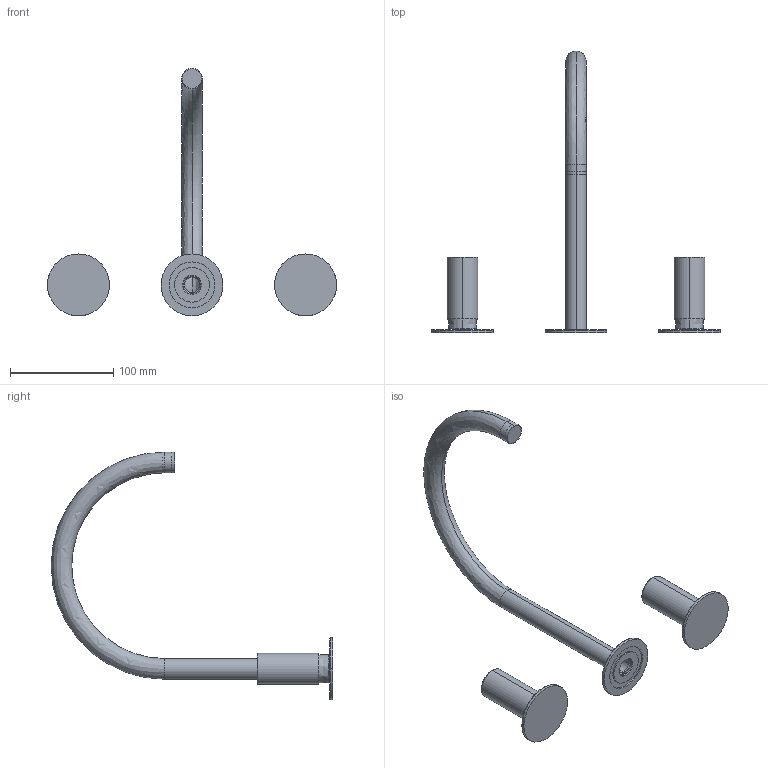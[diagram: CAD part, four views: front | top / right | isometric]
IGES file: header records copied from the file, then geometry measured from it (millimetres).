
Start section:  PTC IGES file: 12068BL.igs
Global section: file name: 12068BL.igs; native system: Creo Parametric by PTC Inc.; preprocessor: 2022014; author: carloff; organization: Unknown; date: 20260216.103618; units: millimetre
Bounding box: 280 x 273 x 240 mm (x, y, z)
Surface area: 92081.8 mm2 (no closed solid volume)
Topology: 0 solids, 0 shells, 511 faces, 3696 edges, 3696 vertices
Faces by surface type: bspline 325, revolution 186
